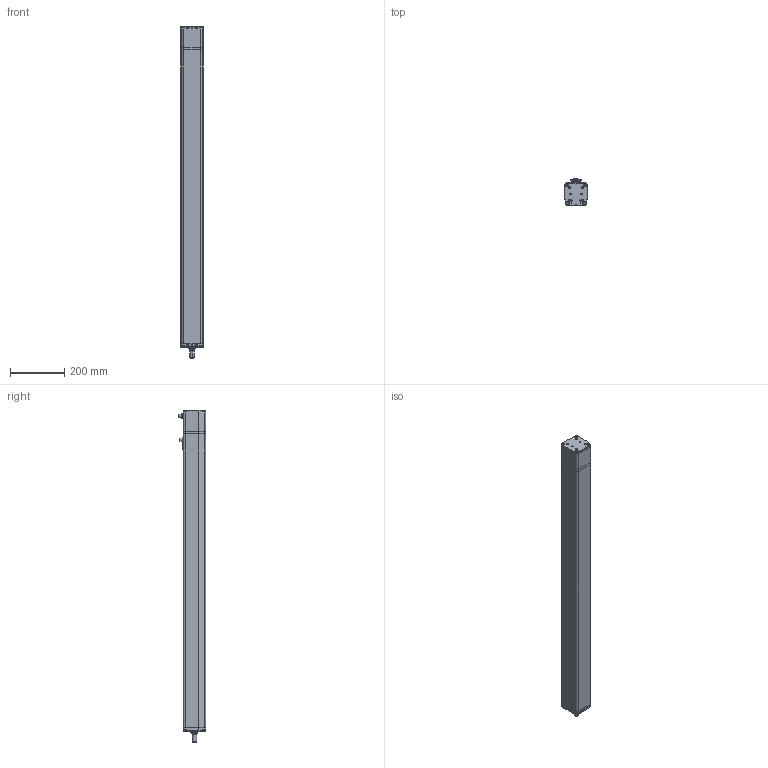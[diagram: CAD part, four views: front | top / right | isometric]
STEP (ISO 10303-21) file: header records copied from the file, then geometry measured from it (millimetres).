
FILE_DESCRIPTION (( 'STEP AP203' ), '1' );
FILE_NAME ('CTC-080-K__-____-_.step', '2023-09-29T10:06:25', ( '' ), ( '' ), 'SwSTEP 2.0', 'SolidWorks 2020', '' );
FILE_SCHEMA (( 'CONFIG_CONTROL_DESIGN' ));
Length unit declared in the file: millimetre
Products named in the file (4): CTC-080-K__-____-_; CTC-080_Aufsatz-A_M16x1.5; CTC-080_housing_Hub_1000_Bremse; CTC-080_Schubrohr_Hub 1000
Assembly tree (3 placements, depth 2):
  CTC-080-K__-____-_
    CTC-080_housing_Hub_1000_Bremse
    CTC-080_Schubrohr_Hub 1000
    CTC-080_Aufsatz-A_M16x1.5
Bounding box: 82 x 99.6 x 1219 mm (x, y, z)
Volume: 6696623.3 mm3; surface area: 791462.7 mm2
Topology: 34 solids, 34 shells, 860 faces, 1914 edges, 1187 vertices
Faces by surface type: cylinder 338, plane 326, cone 100, torus 88, sphere 8
Entity records: 24204 total; most frequent: DIRECTION 4484, CARTESIAN_POINT 4163, ORIENTED_EDGE 3780, EDGE_CURVE 1890, AXIS2_PLACEMENT_3D 1776, VERTEX_POINT 1187, EDGE_LOOP 957, VECTOR 932
